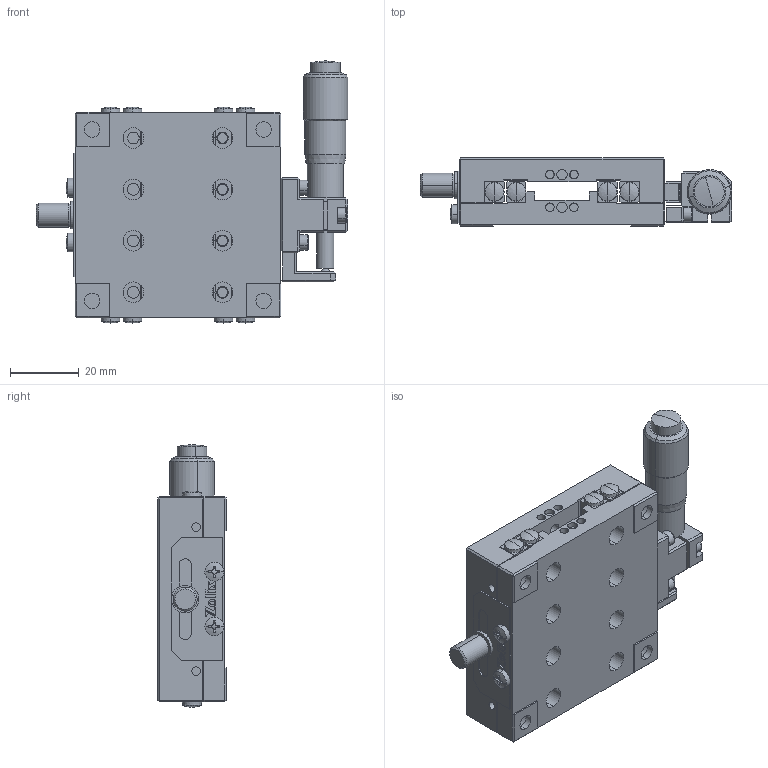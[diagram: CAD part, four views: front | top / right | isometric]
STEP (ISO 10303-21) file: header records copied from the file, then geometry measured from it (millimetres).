
FILE_DESCRIPTION (( 'STEP AP203' ), '1' );
FILE_NAME ('AK13A-6020SR.step', '2019-05-08T06:28:55', ( '' ), ( '' ), 'SwSTEP 2.0', 'SolidWorks 2017', '' );
FILE_SCHEMA (( 'CONFIG_CONTROL_DESIGN' ));
Length unit declared in the file: millimetre
Products named in the file (1): AK13A-6020SR
Bounding box: 90.8 x 20 x 76.5 mm (x, y, z)
Surface area: 31686.6 mm2 (no closed solid volume)
Topology: 0 solids, 30 shells, 662 faces, 2232 edges, 1507 vertices
Faces by surface type: plane 412, cylinder 144, cone 56, torus 26, bspline 16, sphere 8
Entity records: 24135 total; most frequent: CARTESIAN_POINT 4737, DIRECTION 4141, ORIENTED_EDGE 3586, EDGE_CURVE 2185, VERTEX_POINT 1504, LINE 1441, VECTOR 1441, AXIS2_PLACEMENT_3D 1350
